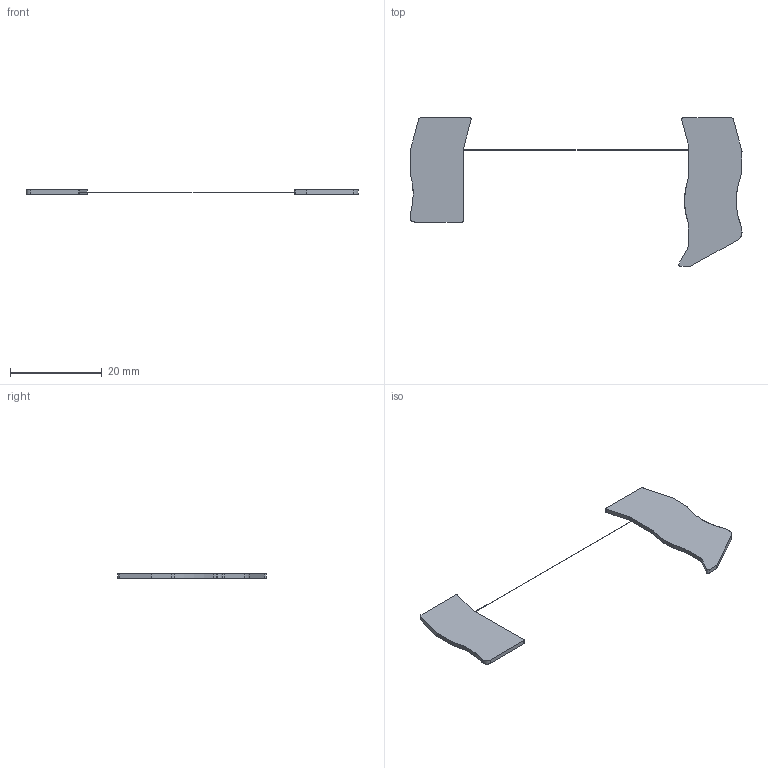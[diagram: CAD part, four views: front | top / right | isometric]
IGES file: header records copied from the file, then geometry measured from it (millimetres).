
Global section: file name: 3036602_ds-st_25-select.igs; native system: OneSpace Designer 3D IGES; preprocessor: 13.01  05-Feb-2005; date: 20051123.141155; units: millimetre
Bounding box: 72.2 x 32.25 x 0.9 mm (x, y, z)
Surface area: 1340.1 mm2 (no closed solid volume)
Topology: 0 solids, 0 shells, 47 faces, 350 edges, 350 vertices
Faces by surface type: bspline 47
